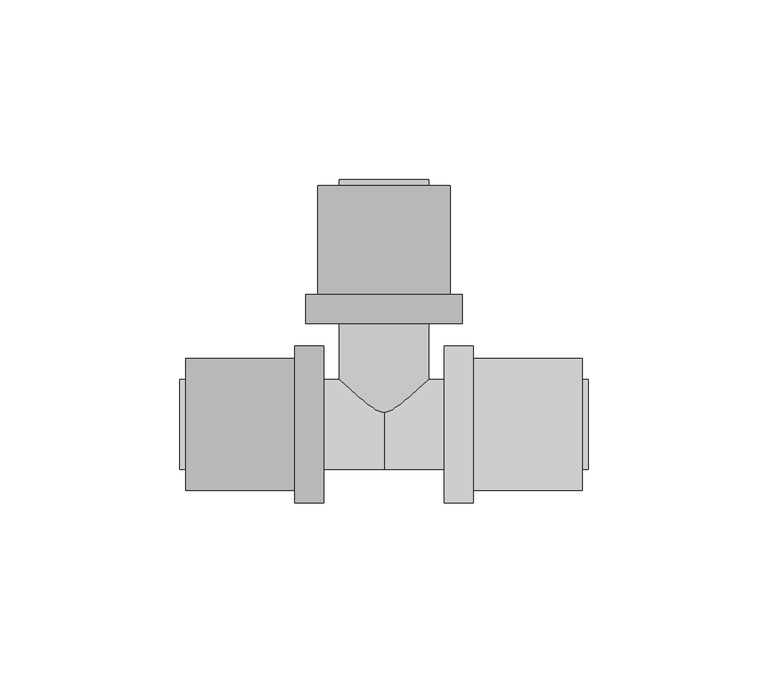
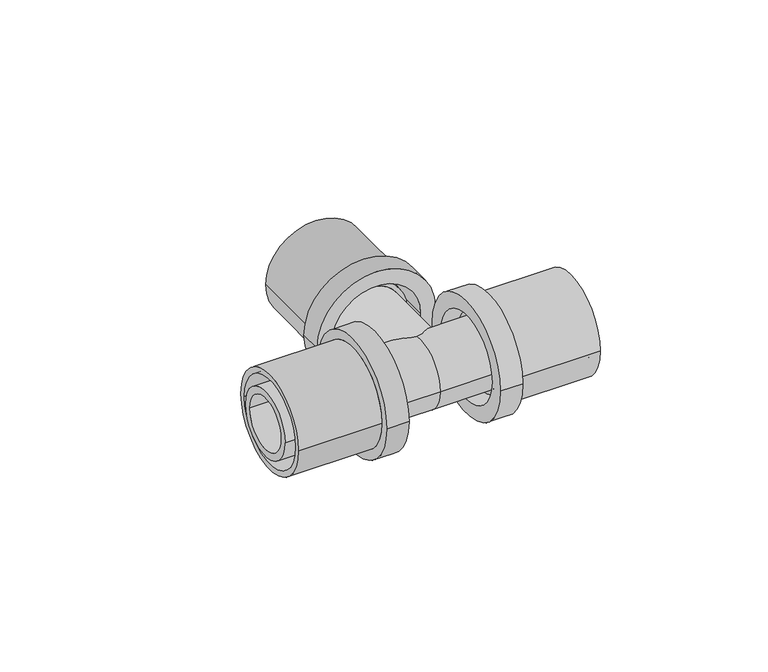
"""IFC4 building model written with IfcOpenShell, lengths in millimetres: pipe fitting geometry, FASTLOC_T-piece_EX+ : FSL T-Piece EX+ AT."""

import ifcopenshell
import ifcopenshell.guid

model = None  # the IFC model being written
_history = None  # IfcOwnerHistory: only IFC2X3 demands one
_inside = {}  # id of a spatial element -> (the spatial element, [elements in it])
_under = {}  # id of a project, library or spatial element -> (it, [spatial elements below it])
_declared = {}  # id of a project -> (the project, [libraries it declares])
_typed = {}  # id of a type object -> (the type object, [elements of that type])
_made_of = {}  # id of a material, layer set ... -> (it, [elements and type objects made of it])


def new_model(schema):
    """Start an empty IFC model of exactly this schema.

    Asked for "IFC4X3", IfcOpenShell would pick the latest addendum, in which some entities
    have other attributes; the version numbers below select the first issue.
    IFC2X3 requires an IfcOwnerHistory on every rooted entity: one is made here for all.
    """
    global model, _history
    if schema == "IFC4X3":
        model = ifcopenshell.file(schema_version=(4, 3, 0, 0))
    else:
        model = ifcopenshell.file(schema=schema)
    _inside.clear()
    _under.clear()
    _declared.clear()
    _typed.clear()
    _made_of.clear()
    _history = None
    if model.schema == "IFC2X3":
        org = make("IfcOrganization", Name="unknown")
        user = make(
            "IfcPersonAndOrganization",
            ThePerson=make("IfcPerson", FamilyName="unknown"),
            TheOrganization=org,
        )
        app = make(
            "IfcApplication",
            ApplicationDeveloper=org,
            Version="unknown",
            ApplicationFullName="unknown",
            ApplicationIdentifier="unknown",
        )
        _history = make(
            "IfcOwnerHistory",
            OwningUser=user,
            OwningApplication=app,
            ChangeAction="ADDED",
            CreationDate=0,
        )
    return model


def make(cls, **values):
    """One entity of the class cls with the attributes given. An attribute that is None is left unset."""
    return model.create_entity(
        cls, **{name: value for name, value in values.items() if value is not None}
    )


def rooted(cls, **values):
    """An entity with a GlobalId (a new one), such as an element, a storey or a relation."""
    return make(cls, GlobalId=ifcopenshell.guid.new(), OwnerHistory=_history, **values)


def si_unit(unit_type, name, prefix=None):
    """IfcSIUnit, for example si_unit("LENGTHUNIT", "METRE", prefix="MILLI")."""
    return make("IfcSIUnit", UnitType=unit_type, Prefix=prefix, Name=name)


def assignment(units):
    """IfcUnitAssignment: the units of a project."""
    return None if units is None else make("IfcUnitAssignment", Units=units)


def point(xyz):
    """IfcCartesianPoint."""
    return None if xyz is None else make("IfcCartesianPoint", Coordinates=xyz)


def direction(xyz):
    """IfcDirection."""
    return None if xyz is None else make("IfcDirection", DirectionRatios=xyz)


def frame(location, z_axis=None, x_axis=None):
    """IfcAxis2Placement3D, a coordinate frame: its origin and axes. An axis left out is left unset."""
    return make(
        "IfcAxis2Placement3D",
        Location=point(location),
        Axis=direction(z_axis),
        RefDirection=direction(x_axis),
    )


def origin():
    """The frame at (0, 0, 0) with its axes left unset."""
    return frame((0.0, 0.0, 0.0))


def place(relative_to, where):
    """IfcLocalPlacement: puts the frame where relative to a parent placement (None: the world)."""
    return make(
        "IfcLocalPlacement", PlacementRelTo=relative_to, RelativePlacement=where
    )


def context(
    kind, dimensions, precision=None, world=None, true_north=None, identifier=None
):
    """IfcGeometricRepresentationContext, for example the 3D "Model" context."""
    return make(
        "IfcGeometricRepresentationContext",
        ContextIdentifier=identifier,
        ContextType=kind,
        CoordinateSpaceDimension=dimensions,
        Precision=precision,
        WorldCoordinateSystem=world,
        TrueNorth=true_north,
    )


def project(units=None, contexts=None):
    """IfcProject with its units and contexts."""
    return rooted(
        "IfcProject",
        Name="project",
        RepresentationContexts=contexts,
        UnitsInContext=assignment(units),
    )


def spatial(cls, under=None, at=None, **own):
    """A site, building, storey or space (cls), placed at a placement, below another one or the project."""
    s = rooted(cls, ObjectPlacement=at, **own)
    if under is not None:
        _under.setdefault(under.id(), (under, []))[1].append(s)
    return s


def polyline(points):
    """IfcPolyline through the points."""
    return make("IfcPolyline", Points=[point(p) for p in points])


def circle_curve(where, radius):
    """IfcCircle in the frame where."""
    return make("IfcCircle", Position=where, Radius=radius)


def shape(context_of_items, identifier, shape_type, items):
    """IfcShapeRepresentation: the items that make up one representation, for example the "Body"."""
    return make(
        "IfcShapeRepresentation",
        ContextOfItems=context_of_items,
        RepresentationIdentifier=identifier,
        RepresentationType=shape_type,
        Items=items,
    )


def source(mapping_origin, context_of_items, identifier, shape_type, items):
    """IfcRepresentationMap: a shape defined once, which mapped items show again and again."""
    return make(
        "IfcRepresentationMap",
        MappingOrigin=mapping_origin,
        MappedRepresentation=shape(context_of_items, identifier, shape_type, items),
    )


def transform(
    local_origin,
    x_axis=None,
    y_axis=None,
    z_axis=None,
    scale=None,
    scale2=None,
    scale3=None,
    uniform=True,
):
    """IfcCartesianTransformationOperator3D, or its non-uniform kind. x_axis, y_axis, z_axis: its Axis1, 2, 3."""
    if uniform:
        return make(
            "IfcCartesianTransformationOperator3D",
            Axis1=direction(x_axis),
            Axis2=direction(y_axis),
            LocalOrigin=point(local_origin),
            Scale=scale,
            Axis3=direction(z_axis),
        )
    return make(
        "IfcCartesianTransformationOperator3DnonUniform",
        Axis1=direction(x_axis),
        Axis2=direction(y_axis),
        LocalOrigin=point(local_origin),
        Scale=scale,
        Axis3=direction(z_axis),
        Scale2=scale2,
        Scale3=scale3,
    )


def mapped(mapping_source, mapping_target):
    """IfcMappedItem: shows the shape of a source again, moved by a transform."""
    return make(
        "IfcMappedItem", MappingSource=mapping_source, MappingTarget=mapping_target
    )


def made_of(thing, what):
    """Note that an element or type object is made of a material, layer set ...; save() writes the relation."""
    if what is not None:
        _made_of.setdefault(what.id(), (what, []))[1].append(thing)
    return thing


def element(
    cls,
    number,
    at=None,
    inside=None,
    cuts=None,
    type_object=None,
    material=None,
    context=None,
    identifier="Body",
    shape_type=None,
    held_by="IfcProductDefinitionShape",
    body=None,
    shapes=None,
    **own,
):
    """One element of the class cls, such as IfcWall. Its Tag is "e" and its number.

    at: its placement. inside: the storey or other place that contains it. cuts: it is an
    opening in that element (IfcRelVoidsElement). A single representation is given by context,
    identifier, shape_type and body (its items); several are given by shapes. held_by: the class
    of the entity that holds the representations. save() writes the other relations.
    """
    e = rooted(cls, Tag="e%d" % number, ObjectPlacement=at, **own)
    if body is not None:
        shapes = [shape(context, identifier, shape_type, body)]
    if shapes is not None:
        e.Representation = make(held_by, Representations=shapes)
    if inside is not None:
        _inside.setdefault(inside.id(), (inside, []))[1].append(e)
    if cuts is not None:
        rooted(
            "IfcRelVoidsElement", RelatingBuildingElement=cuts, RelatedOpeningElement=e
        )
    if type_object is not None:
        _typed.setdefault(type_object.id(), (type_object, []))[1].append(e)
    return made_of(e, material)


def aggregate(whole, parts):
    """IfcRelAggregates: a whole, such as a stair, and the parts it consists of."""
    return rooted("IfcRelAggregates", RelatingObject=whole, RelatedObjects=parts)


def save(model, path):
    """Write the relations noted so far, then the file.

    IfcRelAggregates (storeys below a building ...), IfcRelContainedInSpatialStructure (elements
    in a storey), IfcRelDefinesByType, IfcRelAssociatesMaterial and IfcRelDeclares: one each for
    every whole, place, type object, material and project.
    """
    for whole, parts in _under.values():
        aggregate(whole, parts)
    for where, things in _inside.values():
        rooted(
            "IfcRelContainedInSpatialStructure",
            RelatedElements=things,
            RelatingStructure=where,
        )
    for kind, things in _typed.values():
        rooted("IfcRelDefinesByType", RelatedObjects=things, RelatingType=kind)
    for what, things in _made_of.values():
        rooted("IfcRelAssociatesMaterial", RelatedObjects=things, RelatingMaterial=what)
    for by, libraries in _declared.values():
        rooted("IfcRelDeclares", RelatingContext=by, RelatedDefinitions=libraries)
    model.write(path)


def plane_surface(at):
    """IfcPlane: the flat surface through the origin of the frame at, square to its z axis."""
    return make("IfcPlane", Position=at)


def cylinder_surface(at, radius):
    """IfcCylindricalSurface: all points at the distance radius from the z axis of the frame at."""
    return make("IfcCylindricalSurface", Position=at, Radius=radius)


def revolved_surface(curve, axis_point, axis_direction):
    """IfcSurfaceOfRevolution: the curve turned about the line through axis_point along axis_direction."""
    return make(
        "IfcSurfaceOfRevolution",
        SweptCurve=make("IfcArbitraryOpenProfileDef", ProfileType="CURVE", Curve=curve),
        AxisPosition=make("IfcAxis1Placement", Location=point(axis_point), Axis=direction(axis_direction)),
    )


def advanced_brep(points, edges, surfaces, faces):
    """IfcAdvancedBrep: a solid bounded by faces that lie on surfaces and meet in shared edges.

    An edge is (start, end): straight between two places in points (the first is 0);
    or (start, end, curve); or (start, end, curve, False) where it runs against its curve.
    A face is (place in surfaces, loops), or (place, loops, False) where it looks against
    its surface's normal. A loop lists edges by number (the first is 1), with a minus sign
    where the edge is run from its end to its start. The first loop is the outer one.
    """
    corners = [point(p) for p in points]
    vertices = [make("IfcVertexPoint", VertexGeometry=c) for c in corners]
    made = []
    for start, end, *more in edges:
        made.append(
            make(
                "IfcEdgeCurve",
                EdgeStart=vertices[start],
                EdgeEnd=vertices[end],
                EdgeGeometry=more[0] if more else make("IfcPolyline", Points=[corners[start], corners[end]]),
                SameSense=more[1] if len(more) > 1 else True,
            )
        )
    hull = []
    for where, loops, *sense in faces:
        bounds = []
        for j, loop in enumerate(loops):
            ring = [make("IfcOrientedEdge", EdgeElement=made[abs(k) - 1], Orientation=k > 0) for k in loop]
            bounds.append(
                make(
                    "IfcFaceOuterBound" if j == 0 else "IfcFaceBound",
                    Bound=make("IfcEdgeLoop", EdgeList=ring),
                    Orientation=True,
                )
            )
        hull.append(make("IfcAdvancedFace", Bounds=bounds, FaceSurface=surfaces[where], SameSense=sense[0] if sense else True))
    return make("IfcAdvancedBrep", Outer=make("IfcClosedShell", CfsFaces=hull))


def pipe_fitting_bc9683d6(model_context):
    return source(origin(), model_context, "Body", "AdvancedBrep", [
        advanced_brep(
        [(24.8, 21.8, 0.0), (24.8, -21.8, 0.0), (16.8, -21.8, 0.0), (16.8, 21.8, 0.0), (55.1, 18.35, 0.0), (55.1, -18.35, 0.0), (24.8, -18.35, 0.0), (24.8, 18.35, 0.0), (16.8, 16.2, 0.0), (16.8, -16.2, 0.0), (55.1, -16.2, 0.0), (55.1, 16.2, 0.0)],
        [
            (0, 1, circle_curve(frame((24.8, 0.0, 0.0), z_axis=(-1.0, 0.0, 0.0), x_axis=(0.0, -1.0, 0.0)), 21.8)),
            (1, 2),
            (2, 3, circle_curve(frame((16.8, 0.0, 0.0), z_axis=(1.0, 0.0, 0.0), x_axis=(0.0, -1.0, 0.0)), 21.8)),
            (3, 0),
            (4, 5, circle_curve(frame((55.1, 0.0, 0.0), z_axis=(-1.0, 0.0, 0.0), x_axis=(0.0, -1.0, 0.0)), 18.35)),
            (5, 6),
            (6, 7, circle_curve(frame((24.8, 0.0, 0.0), z_axis=(1.0, 0.0, 0.0), x_axis=(0.0, -1.0, 0.0)), 18.35)),
            (7, 4),
            (8, 9, circle_curve(frame((16.8, 0.0, 0.0), z_axis=(-1.0, 0.0, 0.0), x_axis=(0.0, -1.0, 0.0)), 16.2)),
            (9, 10),
            (10, 11, circle_curve(frame((55.1, 0.0, 0.0), z_axis=(1.0, 0.0, 0.0), x_axis=(0.0, -1.0, 0.0)), 16.2)),
            (11, 8),
            (1, 0, circle_curve(frame((24.8, 0.0, 0.0), z_axis=(-1.0, 0.0, 0.0), x_axis=(0.0, 1.0, 0.0)), 21.8)),
            (3, 2, circle_curve(frame((16.8, 0.0, 0.0), z_axis=(1.0, 0.0, 0.0), x_axis=(0.0, 1.0, 0.0)), 21.8)),
            (6, 7, circle_curve(frame((24.8, 0.0, 0.0), z_axis=(-1.0, 0.0, 0.0), x_axis=(0.0, 1.0, 0.0)), 18.35)),
            (5, 4, circle_curve(frame((55.1, 0.0, 0.0), z_axis=(-1.0, 0.0, 0.0), x_axis=(0.0, 1.0, 0.0)), 18.35)),
            (10, 11, circle_curve(frame((55.1, 0.0, 0.0), z_axis=(-1.0, 0.0, 0.0), x_axis=(0.0, 1.0, 0.0)), 16.2)),
            (9, 8, circle_curve(frame((16.8, 0.0, 0.0), z_axis=(-1.0, 0.0, 0.0), x_axis=(0.0, 1.0, 0.0)), 16.2)),
        ],
        [
            cylinder_surface(frame((16.8, 0.0, 0.0), z_axis=(1.0, 0.0, 0.0), x_axis=(0.0, -1.0, 0.0)), 21.8),
            cylinder_surface(frame((16.8, 0.0, 0.0), z_axis=(1.0, 0.0, 0.0), x_axis=(0.0, -1.0, 0.0)), 18.35),
            revolved_surface(polyline([(55.099999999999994, -16.2, 0.0), (16.8, -16.2, 0.0)]), (16.8, 0.0, 0.0), (1.0, 0.0, 0.0)),
            cylinder_surface(frame((16.8, 0.0, 0.0), z_axis=(1.0, 0.0, 0.0), x_axis=(0.0, 1.0, 0.0)), 21.8),
            plane_surface(frame((24.8, 0.0, 0.0), z_axis=(1.0, 0.0, 0.0), x_axis=(0.0, 1.0, 0.0))),
            cylinder_surface(frame((16.8, 0.0, 0.0), z_axis=(1.0, 0.0, 0.0), x_axis=(0.0, 1.0, 0.0)), 18.35),
            plane_surface(frame((55.1, 0.0, 0.0), z_axis=(1.0, 0.0, 0.0), x_axis=(0.0, 1.0, 0.0))),
            revolved_surface(polyline([(55.099999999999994, 16.2, 0.0), (16.8, 16.2, 0.0)]), (16.8, 0.0, 0.0), (1.0, 0.0, 0.0)),
            plane_surface(frame((16.8, 0.0, 0.0), z_axis=(-1.0, 0.0, 0.0), x_axis=(0.0, 1.0, 0.0))),
        ],
        [
            (0, [[1, 2, 3, 4]]),
            (1, [[5, 6, 7, 8]]),
            (2, [[9, 10, 11, 12]]),
            (3, [[13, -4, 14, -2]]),
            (4, [[-13, -1], [15, -7]]),
            (5, [[16, -8, -15, -6]]),
            (6, [[-16, -5], [17, -11]]),
            (7, [[18, -12, -17, -10]]),
            (8, [[-14, -3], [-18, -9]]),
        ],
    ),
        advanced_brep(
        [(-24.8, -21.8, 0.0), (-24.8, 21.8, 0.0), (-16.8, 21.8, 0.0), (-16.8, -21.8, 0.0), (-55.1, -18.35, 0.0), (-55.1, 18.35, 0.0), (-24.8, 18.35, 0.0), (-24.8, -18.35, 0.0), (-16.8, -16.2, 0.0), (-16.8, 16.2, 0.0), (-55.1, 16.2, 0.0), (-55.1, -16.2, 0.0)],
        [
            (0, 1, circle_curve(frame((-24.8, 0.0, 0.0), z_axis=(1.0, 0.0, 0.0), x_axis=(0.0, 1.0, 0.0)), 21.8)),
            (1, 2),
            (2, 3, circle_curve(frame((-16.8, 0.0, 0.0), z_axis=(-1.0, 0.0, 0.0), x_axis=(0.0, 1.0, 0.0)), 21.8)),
            (3, 0),
            (4, 5, circle_curve(frame((-55.1, 0.0, 0.0), z_axis=(1.0, 0.0, 0.0), x_axis=(0.0, 1.0, 0.0)), 18.35)),
            (5, 6),
            (6, 7, circle_curve(frame((-24.8, 0.0, 0.0), z_axis=(-1.0, 0.0, 0.0), x_axis=(0.0, 1.0, 0.0)), 18.35)),
            (7, 4),
            (8, 9, circle_curve(frame((-16.8, 0.0, 0.0), z_axis=(1.0, 0.0, 0.0), x_axis=(0.0, 1.0, 0.0)), 16.2)),
            (9, 10),
            (10, 11, circle_curve(frame((-55.1, 0.0, 0.0), z_axis=(-1.0, 0.0, 0.0), x_axis=(0.0, 1.0, 0.0)), 16.2)),
            (11, 8),
            (1, 0, circle_curve(frame((-24.8, 0.0, 0.0), z_axis=(1.0, 0.0, 0.0), x_axis=(0.0, -1.0, 0.0)), 21.8)),
            (3, 2, circle_curve(frame((-16.8, 0.0, 0.0), z_axis=(-1.0, 0.0, 0.0), x_axis=(0.0, -1.0, 0.0)), 21.8)),
            (6, 7, circle_curve(frame((-24.8, 0.0, 0.0), z_axis=(1.0, 0.0, 0.0), x_axis=(0.0, -1.0, 0.0)), 18.35)),
            (5, 4, circle_curve(frame((-55.1, 0.0, 0.0), z_axis=(1.0, 0.0, 0.0), x_axis=(0.0, -1.0, 0.0)), 18.35)),
            (10, 11, circle_curve(frame((-55.1, 0.0, 0.0), z_axis=(1.0, 0.0, 0.0), x_axis=(0.0, -1.0, 0.0)), 16.2)),
            (9, 8, circle_curve(frame((-16.8, 0.0, 0.0), z_axis=(1.0, 0.0, 0.0), x_axis=(0.0, -1.0, 0.0)), 16.2)),
        ],
        [
            cylinder_surface(frame((-16.8, 0.0, 0.0), z_axis=(-1.0, 0.0, 0.0), x_axis=(0.0, 1.0, 0.0)), 21.8),
            cylinder_surface(frame((-16.8, 0.0, 0.0), z_axis=(-1.0, 0.0, 0.0), x_axis=(0.0, 1.0, 0.0)), 18.35),
            revolved_surface(polyline([(-55.099999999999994, 16.2, 0.0), (-16.8, 16.2, 0.0)]), (-16.8, 0.0, 0.0), (-1.0, 0.0, 0.0)),
            cylinder_surface(frame((-16.8, 0.0, 0.0), z_axis=(-1.0, 0.0, 0.0), x_axis=(0.0, -1.0, 0.0)), 21.8),
            plane_surface(frame((-24.8, 0.0, 0.0), z_axis=(-1.0, 0.0, 0.0), x_axis=(0.0, -1.0, 0.0))),
            cylinder_surface(frame((-16.8, 0.0, 0.0), z_axis=(-1.0, 0.0, 0.0), x_axis=(0.0, -1.0, 0.0)), 18.35),
            plane_surface(frame((-55.1, 0.0, 0.0), z_axis=(-1.0, 0.0, 0.0), x_axis=(0.0, -1.0, 0.0))),
            revolved_surface(polyline([(-55.099999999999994, -16.2, 0.0), (-16.8, -16.2, 0.0)]), (-16.8, 0.0, 0.0), (-1.0, 0.0, 0.0)),
            plane_surface(frame((-16.8, 0.0, 0.0), z_axis=(1.0, 0.0, 0.0), x_axis=(0.0, -1.0, 0.0))),
        ],
        [
            (0, [[1, 2, 3, 4]]),
            (1, [[5, 6, 7, 8]]),
            (2, [[9, 10, 11, 12]]),
            (3, [[13, -4, 14, -2]]),
            (4, [[-13, -1], [15, -7]]),
            (5, [[16, -8, -15, -6]]),
            (6, [[-16, -5], [17, -11]]),
            (7, [[18, -12, -17, -10]]),
            (8, [[-14, -3], [-18, -9]]),
        ],
    ),
        advanced_brep(
        [(-21.8, 36.1, 0.0), (21.8, 36.1, 0.0), (21.8, 28.1, 0.0), (-21.8, 28.1, 0.0), (-18.35, 66.4, 0.0), (18.35, 66.4, 0.0), (18.35, 36.1, 0.0), (-18.35, 36.1, 0.0), (-16.2, 28.1, 0.0), (16.2, 28.1, 0.0), (16.2, 66.4, 0.0), (-16.2, 66.4, 0.0)],
        [
            (0, 1, circle_curve(frame((0.0, 36.1, 0.0), z_axis=(0.0, -1.0, 0.0), x_axis=(1.0, 0.0, 0.0)), 21.8)),
            (1, 2),
            (2, 3, circle_curve(frame((0.0, 28.1, 0.0), z_axis=(0.0, 1.0, 0.0), x_axis=(1.0, 0.0, 0.0)), 21.8)),
            (3, 0),
            (4, 5, circle_curve(frame((0.0, 66.4, 0.0), z_axis=(0.0, -1.0, 0.0), x_axis=(1.0, 0.0, 0.0)), 18.35)),
            (5, 6),
            (6, 7, circle_curve(frame((0.0, 36.1, 0.0), z_axis=(0.0, 1.0, 0.0), x_axis=(1.0, 0.0, 0.0)), 18.35)),
            (7, 4),
            (8, 9, circle_curve(frame((0.0, 28.1, 0.0), z_axis=(0.0, -1.0, 0.0), x_axis=(1.0, 0.0, 0.0)), 16.2)),
            (9, 10),
            (10, 11, circle_curve(frame((0.0, 66.4, 0.0), z_axis=(0.0, 1.0, 0.0), x_axis=(1.0, 0.0, 0.0)), 16.2)),
            (11, 8),
            (1, 0, circle_curve(frame((0.0, 36.1, 0.0), z_axis=(0.0, -1.0, 0.0), x_axis=(-1.0, 0.0, 0.0)), 21.8)),
            (3, 2, circle_curve(frame((0.0, 28.1, 0.0), z_axis=(0.0, 1.0, 0.0), x_axis=(-1.0, 0.0, 0.0)), 21.8)),
            (6, 7, circle_curve(frame((0.0, 36.1, 0.0), z_axis=(0.0, -1.0, 0.0), x_axis=(-1.0, 0.0, 0.0)), 18.35)),
            (5, 4, circle_curve(frame((0.0, 66.4, 0.0), z_axis=(0.0, -1.0, 0.0), x_axis=(-1.0, 0.0, 0.0)), 18.35)),
            (10, 11, circle_curve(frame((0.0, 66.4, 0.0), z_axis=(0.0, -1.0, 0.0), x_axis=(-1.0, 0.0, 0.0)), 16.2)),
            (9, 8, circle_curve(frame((0.0, 28.1, 0.0), z_axis=(0.0, -1.0, 0.0), x_axis=(-1.0, 0.0, 0.0)), 16.2)),
        ],
        [
            cylinder_surface(frame((0.0, 28.1, 0.0), z_axis=(0.0, 1.0, 0.0), x_axis=(1.0, 0.0, 0.0)), 21.8),
            cylinder_surface(frame((0.0, 28.1, 0.0), z_axis=(0.0, 1.0, 0.0), x_axis=(1.0, 0.0, 0.0)), 18.35),
            revolved_surface(polyline([(16.2, 66.4, 0.0), (16.2, 28.1, 0.0)]), (0.0, 28.1, 0.0), (0.0, 1.0, 0.0)),
            cylinder_surface(frame((0.0, 28.1, 0.0), z_axis=(0.0, 1.0, 0.0), x_axis=(-1.0, 0.0, 0.0)), 21.8),
            plane_surface(frame((0.0, 36.1, 0.0), z_axis=(0.0, 1.0, 0.0), x_axis=(-1.0, 0.0, 0.0))),
            cylinder_surface(frame((0.0, 28.1, 0.0), z_axis=(0.0, 1.0, 0.0), x_axis=(-1.0, 0.0, 0.0)), 18.35),
            plane_surface(frame((0.0, 66.4, 0.0), z_axis=(0.0, 1.0, 0.0), x_axis=(-1.0, 0.0, 0.0))),
            revolved_surface(polyline([(-16.2, 66.4, 0.0), (-16.2, 28.1, 0.0)]), (0.0, 28.1, 0.0), (0.0, 1.0, 0.0)),
            plane_surface(frame((0.0, 28.1, 0.0), z_axis=(0.0, -1.0, 0.0), x_axis=(-1.0, 0.0, 0.0))),
        ],
        [
            (0, [[1, 2, 3, 4]]),
            (1, [[5, 6, 7, 8]]),
            (2, [[9, 10, 11, 12]]),
            (3, [[13, -4, 14, -2]]),
            (4, [[-13, -1], [15, -7]]),
            (5, [[16, -8, -15, -6]]),
            (6, [[-16, -5], [17, -11]]),
            (7, [[18, -12, -17, -10]]),
            (8, [[-14, -3], [-18, -9]]),
        ],
    ),
        advanced_brep(
        [(0.0, 12.5, 0.0), (0.0, -12.5, 0.0), (-21.8, -12.5, 0.0), (-21.8, 12.5, 0.0), (21.8, 12.5, 0.0), (21.8, -12.5, 0.0), (24.8, 14.1, 0.0), (24.8, -14.1, 0.0), (21.8, -14.1, 0.0), (21.8, 14.1, 0.0), (56.75, 12.5, 0.0), (56.75, -12.5, 0.0), (24.8, -12.5, 0.0), (24.8, 12.5, 0.0), (-56.75, 9.85, 0.0), (-56.75, -9.85, 0.0), (56.75, -9.85, 0.0), (56.75, 9.85, 0.0), (-24.8, 12.5, 0.0), (-24.8, -12.5, 0.0), (-56.75, -12.5, 0.0), (-56.75, 12.5, 0.0), (-21.8, 14.1, 0.0), (-21.8, -14.1, 0.0), (-24.8, -14.1, 0.0), (-24.8, 14.1, 0.0)],
        [
            (0, 1, circle_curve(frame((0.0, 0.0, 0.0), z_axis=(-1.0, 0.0, 0.0), x_axis=(0.0, -1.0, 0.0)), 12.5)),
            (1, 2),
            (2, 3, circle_curve(frame((-21.8, 0.0, 0.0), z_axis=(1.0, 0.0, 0.0), x_axis=(0.0, -1.0, 0.0)), 12.5)),
            (3, 0),
            (4, 5, circle_curve(frame((21.8, 0.0, 0.0), z_axis=(-1.0, 0.0, 0.0), x_axis=(0.0, -1.0, 0.0)), 12.5)),
            (5, 1),
            (0, 4),
            (6, 7, circle_curve(frame((24.8, 0.0, 0.0), z_axis=(-1.0, 0.0, 0.0), x_axis=(0.0, -1.0, 0.0)), 14.1)),
            (7, 8),
            (8, 9, circle_curve(frame((21.8, 0.0, 0.0), z_axis=(1.0, 0.0, 0.0), x_axis=(0.0, -1.0, 0.0)), 14.1)),
            (9, 6),
            (10, 11, circle_curve(frame((56.75, 0.0, 0.0), z_axis=(-1.0, 0.0, 0.0), x_axis=(0.0, -1.0, 0.0)), 12.5)),
            (11, 12),
            (12, 13, circle_curve(frame((24.8, 0.0, 0.0), z_axis=(1.0, 0.0, 0.0), x_axis=(0.0, -1.0, 0.0)), 12.5)),
            (13, 10),
            (14, 15, circle_curve(frame((-56.75, 0.0, 0.0), z_axis=(-1.0, 0.0, 0.0), x_axis=(0.0, -1.0, 0.0)), 9.85)),
            (15, 16),
            (16, 17, circle_curve(frame((56.75, 0.0, 0.0), z_axis=(1.0, 0.0, 0.0), x_axis=(0.0, -1.0, 0.0)), 9.85)),
            (17, 14),
            (18, 19, circle_curve(frame((-24.8, 0.0, 0.0), z_axis=(-1.0, 0.0, 0.0), x_axis=(0.0, -1.0, 0.0)), 12.5)),
            (19, 20),
            (20, 21, circle_curve(frame((-56.75, 0.0, 0.0), z_axis=(1.0, 0.0, 0.0), x_axis=(0.0, -1.0, 0.0)), 12.5)),
            (21, 18),
            (22, 23, circle_curve(frame((-21.8, 0.0, 0.0), z_axis=(-1.0, 0.0, 0.0), x_axis=(0.0, -1.0, 0.0)), 14.1)),
            (23, 24),
            (24, 25, circle_curve(frame((-24.8, 0.0, 0.0), z_axis=(1.0, 0.0, 0.0), x_axis=(0.0, -1.0, 0.0)), 14.1)),
            (25, 22),
            (22, 23, circle_curve(frame((-21.8, 0.0, 0.0), z_axis=(1.0, 0.0, 0.0), x_axis=(0.0, 1.0, 0.0)), 14.1)),
            (2, 3, circle_curve(frame((-21.8, 0.0, 0.0), z_axis=(-1.0, 0.0, 0.0), x_axis=(0.0, 1.0, 0.0)), 12.5)),
            (1, 0, circle_curve(frame((0.0, 0.0, 0.0), z_axis=(-1.0, 0.0, 0.0), x_axis=(0.0, 1.0, 0.0)), 12.5)),
            (5, 4, circle_curve(frame((21.8, 0.0, 0.0), z_axis=(-1.0, 0.0, 0.0), x_axis=(0.0, 1.0, 0.0)), 12.5)),
            (8, 9, circle_curve(frame((21.8, 0.0, 0.0), z_axis=(-1.0, 0.0, 0.0), x_axis=(0.0, 1.0, 0.0)), 14.1)),
            (7, 6, circle_curve(frame((24.8, 0.0, 0.0), z_axis=(-1.0, 0.0, 0.0), x_axis=(0.0, 1.0, 0.0)), 14.1)),
            (12, 13, circle_curve(frame((24.8, 0.0, 0.0), z_axis=(-1.0, 0.0, 0.0), x_axis=(0.0, 1.0, 0.0)), 12.5)),
            (11, 10, circle_curve(frame((56.75, 0.0, 0.0), z_axis=(-1.0, 0.0, 0.0), x_axis=(0.0, 1.0, 0.0)), 12.5)),
            (16, 17, circle_curve(frame((56.75, 0.0, 0.0), z_axis=(-1.0, 0.0, 0.0), x_axis=(0.0, 1.0, 0.0)), 9.85)),
            (15, 14, circle_curve(frame((-56.75, 0.0, 0.0), z_axis=(-1.0, 0.0, 0.0), x_axis=(0.0, 1.0, 0.0)), 9.85)),
            (20, 21, circle_curve(frame((-56.75, 0.0, 0.0), z_axis=(-1.0, 0.0, 0.0), x_axis=(0.0, 1.0, 0.0)), 12.5)),
            (19, 18, circle_curve(frame((-24.8, 0.0, 0.0), z_axis=(-1.0, 0.0, 0.0), x_axis=(0.0, 1.0, 0.0)), 12.5)),
            (24, 25, circle_curve(frame((-24.8, 0.0, 0.0), z_axis=(-1.0, 0.0, 0.0), x_axis=(0.0, 1.0, 0.0)), 14.1)),
        ],
        [
            cylinder_surface(frame((0.0, 0.0, 0.0), z_axis=(1.0, 0.0, 0.0), x_axis=(0.0, -1.0, 0.0)), 12.5),
            cylinder_surface(frame((0.0, 0.0, 0.0), z_axis=(1.0, 0.0, 0.0), x_axis=(0.0, -1.0, 0.0)), 14.1),
            revolved_surface(polyline([(56.75, -9.85, 0.0), (-56.75, -9.85, 0.0)]), (0.0, 0.0, 0.0), (1.0, 0.0, 0.0)),
            plane_surface(frame((-21.8, 0.0, 0.0), z_axis=(1.0, 0.0, 0.0), x_axis=(0.0, 1.0, 0.0))),
            cylinder_surface(frame((0.0, 0.0, 0.0), z_axis=(1.0, 0.0, 0.0), x_axis=(0.0, 1.0, 0.0)), 12.5),
            plane_surface(frame((21.8, 0.0, 0.0), z_axis=(-1.0, 0.0, 0.0), x_axis=(0.0, 1.0, 0.0))),
            cylinder_surface(frame((0.0, 0.0, 0.0), z_axis=(1.0, 0.0, 0.0), x_axis=(0.0, 1.0, 0.0)), 14.1),
            plane_surface(frame((24.8, 0.0, 0.0), z_axis=(1.0, 0.0, 0.0), x_axis=(0.0, 1.0, 0.0))),
            plane_surface(frame((56.75, 0.0, 0.0), z_axis=(1.0, 0.0, 0.0), x_axis=(0.0, 1.0, 0.0))),
            revolved_surface(polyline([(56.75, 9.85, 0.0), (-56.75, 9.85, 0.0)]), (0.0, 0.0, 0.0), (1.0, 0.0, 0.0)),
            plane_surface(frame((-56.75, 0.0, 0.0), z_axis=(-1.0, 0.0, 0.0), x_axis=(0.0, 1.0, 0.0))),
            plane_surface(frame((-24.8, 0.0, 0.0), z_axis=(-1.0, 0.0, 0.0), x_axis=(0.0, 1.0, 0.0))),
        ],
        [
            (0, [[1, 2, 3, 4]]),
            (0, [[5, 6, -1, 7]]),
            (1, [[8, 9, 10, 11]]),
            (0, [[12, 13, 14, 15]]),
            (2, [[16, 17, 18, 19]]),
            (0, [[20, 21, 22, 23]]),
            (1, [[24, 25, 26, 27]]),
            (3, [[28, -24], [29, -3]]),
            (4, [[30, -4, -29, -2]]),
            (4, [[31, -7, -30, -6]]),
            (5, [[32, -10], [-31, -5]]),
            (6, [[33, -11, -32, -9]]),
            (7, [[-33, -8], [34, -14]]),
            (4, [[35, -15, -34, -13]]),
            (8, [[-35, -12], [36, -18]]),
            (9, [[37, -19, -36, -17]]),
            (10, [[38, -22], [-37, -16]]),
            (4, [[39, -23, -38, -21]]),
            (11, [[40, -26], [-39, -20]]),
            (6, [[-28, -27, -40, -25]]),
        ],
    ),
        advanced_brep(
        [(9.85, 68.1, 0.0), (-9.85, 68.1, 0.0), (-9.85, 0.0, 0.0), (9.85, 0.0, 0.0), (12.5, 0.0, 0.0), (-12.5, 0.0, 0.0), (-12.5, 33.1, 0.0), (12.5, 33.1, 0.0), (14.1, 33.1, 0.0), (-14.1, 33.1, 0.0), (-14.1, 36.1, 0.0), (14.1, 36.1, 0.0), (12.5, 36.1, 0.0), (-12.5, 36.1, 0.0), (-12.5, 68.1, 0.0), (12.5, 68.1, 0.0)],
        [
            (0, 1, circle_curve(frame((0.0, 68.1, 0.0), z_axis=(0.0, 1.0, 0.0), x_axis=(-1.0, 0.0, 0.0)), 9.85)),
            (1, 2),
            (2, 3, circle_curve(frame((0.0, 0.0, 0.0), z_axis=(0.0, -1.0, 0.0), x_axis=(-1.0, 0.0, 0.0)), 9.85)),
            (3, 0),
            (4, 5, circle_curve(frame((0.0, 0.0, 0.0), z_axis=(0.0, 1.0, 0.0), x_axis=(-1.0, 0.0, 0.0)), 12.5)),
            (5, 6),
            (6, 7, circle_curve(frame((0.0, 33.1, 0.0), z_axis=(0.0, -1.0, 0.0), x_axis=(-1.0, 0.0, 0.0)), 12.5)),
            (7, 4),
            (8, 9, circle_curve(frame((0.0, 33.1, 0.0), z_axis=(0.0, 1.0, 0.0), x_axis=(-1.0, 0.0, 0.0)), 14.1)),
            (9, 10),
            (10, 11, circle_curve(frame((0.0, 36.1, 0.0), z_axis=(0.0, -1.0, 0.0), x_axis=(-1.0, 0.0, 0.0)), 14.1)),
            (11, 8),
            (12, 13, circle_curve(frame((0.0, 36.1, 0.0), z_axis=(0.0, 1.0, 0.0), x_axis=(-1.0, 0.0, 0.0)), 12.5)),
            (13, 14),
            (14, 15, circle_curve(frame((0.0, 68.1, 0.0), z_axis=(0.0, -1.0, 0.0), x_axis=(-1.0, 0.0, 0.0)), 12.5)),
            (15, 12),
            (1, 0, circle_curve(frame((0.0, 68.1, 0.0), z_axis=(0.0, 1.0, 0.0), x_axis=(1.0, 0.0, 0.0)), 9.85)),
            (3, 2, circle_curve(frame((0.0, 0.0, 0.0), z_axis=(0.0, -1.0, 0.0), x_axis=(1.0, 0.0, 0.0)), 9.85)),
            (4, 5, circle_curve(frame((0.0, 0.0, 0.0), z_axis=(0.0, -1.0, 0.0), x_axis=(1.0, 0.0, 0.0)), 12.5)),
            (7, 6, circle_curve(frame((0.0, 33.1, 0.0), z_axis=(0.0, -1.0, 0.0), x_axis=(1.0, 0.0, 0.0)), 12.5)),
            (8, 9, circle_curve(frame((0.0, 33.1, 0.0), z_axis=(0.0, -1.0, 0.0), x_axis=(1.0, 0.0, 0.0)), 14.1)),
            (11, 10, circle_curve(frame((0.0, 36.1, 0.0), z_axis=(0.0, -1.0, 0.0), x_axis=(1.0, 0.0, 0.0)), 14.1)),
            (12, 13, circle_curve(frame((0.0, 36.1, 0.0), z_axis=(0.0, -1.0, 0.0), x_axis=(1.0, 0.0, 0.0)), 12.5)),
            (15, 14, circle_curve(frame((0.0, 68.1, 0.0), z_axis=(0.0, -1.0, 0.0), x_axis=(1.0, 0.0, 0.0)), 12.5)),
        ],
        [
            revolved_surface(polyline([(-9.85, 0.0, 0.0), (-9.85, 68.1, 0.0)]), (0.0, 0.0, 0.0), (0.0, -1.0, 0.0)),
            cylinder_surface(frame((0.0, 0.0, 0.0), z_axis=(0.0, -1.0, 0.0), x_axis=(-1.0, 0.0, 0.0)), 12.5),
            cylinder_surface(frame((0.0, 0.0, 0.0), z_axis=(0.0, -1.0, 0.0), x_axis=(-1.0, 0.0, 0.0)), 14.1),
            revolved_surface(polyline([(9.85, 0.0, 0.0), (9.85, 68.1, 0.0)]), (0.0, 0.0, 0.0), (0.0, -1.0, 0.0)),
            plane_surface(frame((0.0, 0.0, 0.0), z_axis=(0.0, -1.0, 0.0), x_axis=(1.0, 0.0, 0.0))),
            cylinder_surface(frame((0.0, 0.0, 0.0), z_axis=(0.0, -1.0, 0.0), x_axis=(1.0, 0.0, 0.0)), 12.5),
            plane_surface(frame((0.0, 33.1, 0.0), z_axis=(0.0, -1.0, 0.0), x_axis=(1.0, 0.0, 0.0))),
            cylinder_surface(frame((0.0, 0.0, 0.0), z_axis=(0.0, -1.0, 0.0), x_axis=(1.0, 0.0, 0.0)), 14.1),
            plane_surface(frame((0.0, 36.1, 0.0), z_axis=(0.0, 1.0, 0.0), x_axis=(1.0, 0.0, 0.0))),
            plane_surface(frame((0.0, 68.1, 0.0), z_axis=(0.0, 1.0, 0.0), x_axis=(1.0, 0.0, 0.0))),
        ],
        [
            (0, [[1, 2, 3, 4]]),
            (1, [[5, 6, 7, 8]]),
            (2, [[9, 10, 11, 12]]),
            (1, [[13, 14, 15, 16]]),
            (3, [[17, -4, 18, -2]]),
            (4, [[19, -5], [-18, -3]]),
            (5, [[-19, -8, 20, -6]]),
            (6, [[21, -9], [-20, -7]]),
            (7, [[-21, -12, 22, -10]]),
            (8, [[-22, -11], [23, -13]]),
            (5, [[-23, -16, 24, -14]]),
            (9, [[-24, -15], [-17, -1]]),
        ],
    ),
    ])


if __name__ == "__main__":
    model = new_model("IFC4")
    model_context = context("Model", 3, world=origin())
    ifc_project = project(units=[si_unit("LENGTHUNIT", "METRE", prefix="MILLI")], contexts=[model_context])
    site = spatial("IfcSite", under=ifc_project)
    building = spatial("IfcBuilding", under=site)
    placement = place(None, origin())
    pipe_fitting_shape = pipe_fitting_bc9683d6(model_context)
    element("IfcPipeFitting", 1, ObjectType="FASTLOC_T-piece_EX+ : FSL T-Piece EX+ AT", at=placement, inside=building, context=model_context, shape_type="MappedRepresentation", body=[
        mapped(pipe_fitting_shape, transform((0.0, 0.0, 0.0), x_axis=(1.0, 0.0, 0.0), y_axis=(0.0, 1.0, 0.0), z_axis=(0.0, 0.0, 1.0))),
    ])
    save(model, "model.ifc")
